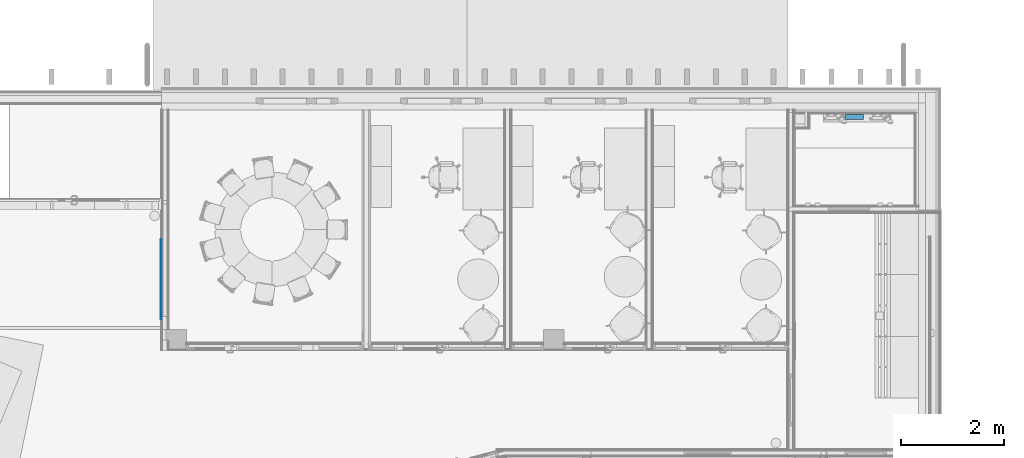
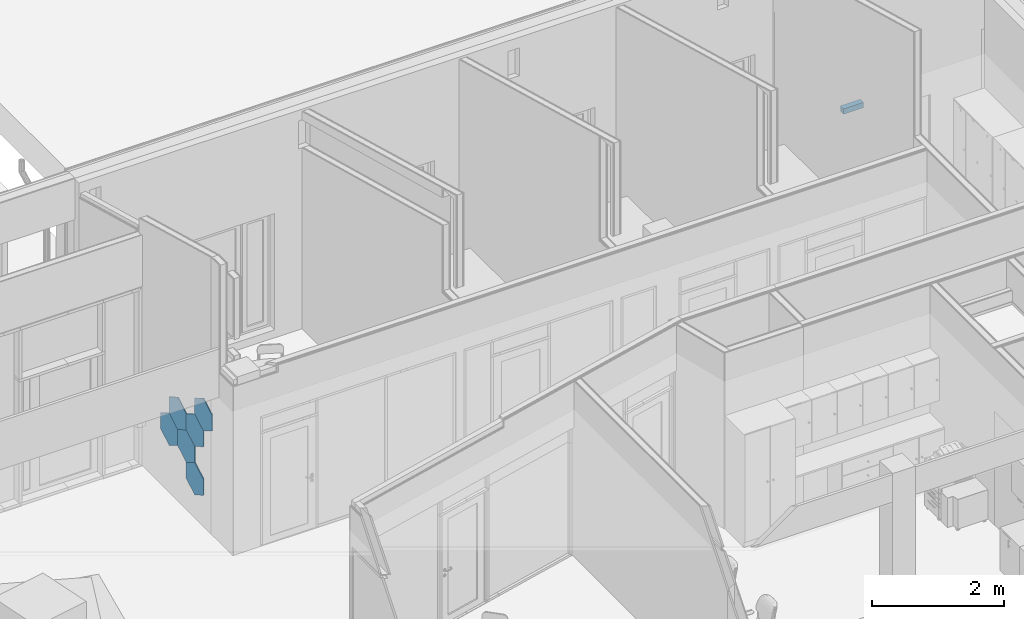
# One storey, part 12 of 153: 7 discrete accessories.
"""IFC2X3 building model written with IfcOpenShell, lengths in millimetres."""

import ifcopenshell
import ifcopenshell.guid

model = None  # the IFC model being written
_history = None  # IfcOwnerHistory: only IFC2X3 demands one
_inside = {}  # id of a spatial element -> (the spatial element, [elements in it])
_under = {}  # id of a project, library or spatial element -> (it, [spatial elements below it])
_declared = {}  # id of a project -> (the project, [libraries it declares])
_typed = {}  # id of a type object -> (the type object, [elements of that type])
_made_of = {}  # id of a material, layer set ... -> (it, [elements and type objects made of it])


def new_model(schema):
    """Start an empty IFC model of exactly this schema.

    Asked for "IFC4X3", IfcOpenShell would pick the latest addendum, in which some entities
    have other attributes; the version numbers below select the first issue.
    IFC2X3 requires an IfcOwnerHistory on every rooted entity: one is made here for all.
    """
    global model, _history
    if schema == "IFC4X3":
        model = ifcopenshell.file(schema_version=(4, 3, 0, 0))
    else:
        model = ifcopenshell.file(schema=schema)
    _inside.clear()
    _under.clear()
    _declared.clear()
    _typed.clear()
    _made_of.clear()
    _history = None
    if model.schema == "IFC2X3":
        org = make("IfcOrganization", Name="unknown")
        user = make(
            "IfcPersonAndOrganization",
            ThePerson=make("IfcPerson", FamilyName="unknown"),
            TheOrganization=org,
        )
        app = make(
            "IfcApplication",
            ApplicationDeveloper=org,
            Version="unknown",
            ApplicationFullName="unknown",
            ApplicationIdentifier="unknown",
        )
        _history = make(
            "IfcOwnerHistory",
            OwningUser=user,
            OwningApplication=app,
            ChangeAction="ADDED",
            CreationDate=0,
        )
    return model


def make(cls, **values):
    """One entity of the class cls with the attributes given. An attribute that is None is left unset."""
    return model.create_entity(
        cls, **{name: value for name, value in values.items() if value is not None}
    )


def entity(cls, *values):
    """Any entity or typed value of the class cls, its attributes in the order of the schema. None: left unset."""
    e = model.create_entity(cls)
    for i, value in enumerate(values):
        if value is not None:
            e[i] = value
    return e


def rooted(cls, **values):
    """An entity with a GlobalId (a new one), such as an element, a storey or a relation."""
    return make(cls, GlobalId=ifcopenshell.guid.new(), OwnerHistory=_history, **values)


def si_unit(unit_type, name, prefix=None):
    """IfcSIUnit, for example si_unit("LENGTHUNIT", "METRE", prefix="MILLI")."""
    return make("IfcSIUnit", UnitType=unit_type, Prefix=prefix, Name=name)


def converted_unit(unit_type, name, factor, base, dimensions=None, offset=None):
    """IfcConversionBasedUnit, such as the inch: factor (a typed value) times the base unit."""
    return make(
        "IfcConversionBasedUnit"
        if offset is None
        else "IfcConversionBasedUnitWithOffset",
        ConversionOffset=offset,
        Dimensions=None
        if dimensions is None
        else entity("IfcDimensionalExponents", *dimensions),
        UnitType=unit_type,
        Name=name,
        ConversionFactor=make(
            "IfcMeasureWithUnit", ValueComponent=factor, UnitComponent=base
        ),
    )


def derived_unit(unit_type, elements):
    """IfcDerivedUnit: a product of units, each with its exponent."""
    return make(
        "IfcDerivedUnit",
        Elements=[
            make("IfcDerivedUnitElement", Unit=unit, Exponent=power)
            for unit, power in elements
        ],
        UnitType=unit_type,
    )


def money_unit(currency):
    """IfcMonetaryUnit."""
    return make("IfcMonetaryUnit", Currency=currency)


def assignment(units):
    """IfcUnitAssignment: the units of a project."""
    return None if units is None else make("IfcUnitAssignment", Units=units)


def point(xyz):
    """IfcCartesianPoint."""
    return None if xyz is None else make("IfcCartesianPoint", Coordinates=xyz)


def direction(xyz):
    """IfcDirection."""
    return None if xyz is None else make("IfcDirection", DirectionRatios=xyz)


def frame(location, z_axis=None, x_axis=None):
    """IfcAxis2Placement3D, a coordinate frame: its origin and axes. An axis left out is left unset."""
    return make(
        "IfcAxis2Placement3D",
        Location=point(location),
        Axis=direction(z_axis),
        RefDirection=direction(x_axis),
    )


def origin_with_axes():
    """The frame at (0, 0, 0) with the z axis (0, 0, 1) and the x axis (1, 0, 0) written out."""
    return frame((0.0, 0.0, 0.0), z_axis=(0.0, 0.0, 1.0), x_axis=(1.0, 0.0, 0.0))


def place(relative_to, where):
    """IfcLocalPlacement: puts the frame where relative to a parent placement (None: the world)."""
    return make(
        "IfcLocalPlacement", PlacementRelTo=relative_to, RelativePlacement=where
    )


def context(
    kind, dimensions, precision=None, world=None, true_north=None, identifier=None
):
    """IfcGeometricRepresentationContext, for example the 3D "Model" context."""
    return make(
        "IfcGeometricRepresentationContext",
        ContextIdentifier=identifier,
        ContextType=kind,
        CoordinateSpaceDimension=dimensions,
        Precision=precision,
        WorldCoordinateSystem=world,
        TrueNorth=true_north,
    )


def subcontext(parent, identifier, kind, view, scale=None):
    """IfcGeometricRepresentationSubContext, for example "Body" below "Model"."""
    return make(
        "IfcGeometricRepresentationSubContext",
        ContextIdentifier=identifier,
        ContextType=kind,
        ParentContext=parent,
        TargetScale=scale,
        TargetView=view,
    )


def project(units=None, contexts=None):
    """IfcProject with its units and contexts."""
    return rooted(
        "IfcProject",
        Name="project",
        RepresentationContexts=contexts,
        UnitsInContext=assignment(units),
    )


def spatial(cls, under=None, at=None, **own):
    """A site, building, storey or space (cls), placed at a placement, below another one or the project."""
    s = rooted(cls, ObjectPlacement=at, **own)
    if under is not None:
        _under.setdefault(under.id(), (under, []))[1].append(s)
    return s


def faces_of(points, faces, orient=None, outer=None):
    """IfcFace entities. A face is a list of loops; a loop is a list of indices into points, from 0.

    orient and outer hold one flag for each loop. By default every Orientation is true, the
    first loop of a face is its IfcFaceOuterBound and the others are IfcFaceBound.
    """
    made = []
    for i, loops in enumerate(faces):
        bounds = []
        for j, loop in enumerate(loops):
            is_outer = j == 0 if outer is None else outer[i][j]
            bounds.append(
                make(
                    "IfcFaceOuterBound" if is_outer else "IfcFaceBound",
                    Bound=make("IfcPolyLoop", Polygon=[points[k] for k in loop]),
                    Orientation=True if orient is None else orient[i][j],
                )
            )
        made.append(make("IfcFace", Bounds=bounds))
    return made


def faceted_brep(points, faces, orient=None, outer=None, voids=None):
    """IfcFacetedBrep: a solid bounded by flat faces; with voids (closed shells), ...WithVoids."""
    shared = [point(p) for p in points]
    hull = make("IfcClosedShell", CfsFaces=faces_of(shared, faces, orient, outer))
    if voids is None:
        return make("IfcFacetedBrep", Outer=hull)
    return make(
        "IfcFacetedBrepWithVoids",
        Outer=hull,
        Voids=[
            make(cls, CfsFaces=faces_of(shared, fs, o, b)) for cls, fs, o, b in voids
        ],
    )


def shape(context_of_items, identifier, shape_type, items):
    """IfcShapeRepresentation: the items that make up one representation, for example the "Body"."""
    return make(
        "IfcShapeRepresentation",
        ContextOfItems=context_of_items,
        RepresentationIdentifier=identifier,
        RepresentationType=shape_type,
        Items=items,
    )


def source(mapping_origin, context_of_items, identifier, shape_type, items):
    """IfcRepresentationMap: a shape defined once, which mapped items show again and again."""
    return make(
        "IfcRepresentationMap",
        MappingOrigin=mapping_origin,
        MappedRepresentation=shape(context_of_items, identifier, shape_type, items),
    )


def transform(
    local_origin,
    x_axis=None,
    y_axis=None,
    z_axis=None,
    scale=None,
    scale2=None,
    scale3=None,
    uniform=True,
):
    """IfcCartesianTransformationOperator3D, or its non-uniform kind. x_axis, y_axis, z_axis: its Axis1, 2, 3."""
    if uniform:
        return make(
            "IfcCartesianTransformationOperator3D",
            Axis1=direction(x_axis),
            Axis2=direction(y_axis),
            LocalOrigin=point(local_origin),
            Scale=scale,
            Axis3=direction(z_axis),
        )
    return make(
        "IfcCartesianTransformationOperator3DnonUniform",
        Axis1=direction(x_axis),
        Axis2=direction(y_axis),
        LocalOrigin=point(local_origin),
        Scale=scale,
        Axis3=direction(z_axis),
        Scale2=scale2,
        Scale3=scale3,
    )


def mapped(mapping_source, mapping_target):
    """IfcMappedItem: shows the shape of a source again, moved by a transform."""
    return make(
        "IfcMappedItem", MappingSource=mapping_source, MappingTarget=mapping_target
    )


def made_of(thing, what):
    """Note that an element or type object is made of a material, layer set ...; save() writes the relation."""
    if what is not None:
        _made_of.setdefault(what.id(), (what, []))[1].append(thing)
    return thing


def type_object(cls, material=None, **own):
    """A type object (cls), such as IfcWallType, which elements share."""
    return made_of(rooted(cls, **own), material)


def element(
    cls,
    number,
    at=None,
    inside=None,
    cuts=None,
    type_object=None,
    material=None,
    context=None,
    identifier="Body",
    shape_type=None,
    held_by="IfcProductDefinitionShape",
    body=None,
    shapes=None,
    **own,
):
    """One element of the class cls, such as IfcWall. Its Tag is "e" and its number.

    at: its placement. inside: the storey or other place that contains it. cuts: it is an
    opening in that element (IfcRelVoidsElement). A single representation is given by context,
    identifier, shape_type and body (its items); several are given by shapes. held_by: the class
    of the entity that holds the representations. save() writes the other relations.
    """
    e = rooted(cls, Tag="e%d" % number, ObjectPlacement=at, **own)
    if body is not None:
        shapes = [shape(context, identifier, shape_type, body)]
    if shapes is not None:
        e.Representation = make(held_by, Representations=shapes)
    if inside is not None:
        _inside.setdefault(inside.id(), (inside, []))[1].append(e)
    if cuts is not None:
        rooted(
            "IfcRelVoidsElement", RelatingBuildingElement=cuts, RelatedOpeningElement=e
        )
    if type_object is not None:
        _typed.setdefault(type_object.id(), (type_object, []))[1].append(e)
    return made_of(e, material)


def aggregate(whole, parts):
    """IfcRelAggregates: a whole, such as a stair, and the parts it consists of."""
    return rooted("IfcRelAggregates", RelatingObject=whole, RelatedObjects=parts)


def save(model, path):
    """Write the relations noted so far, then the file.

    IfcRelAggregates (storeys below a building ...), IfcRelContainedInSpatialStructure (elements
    in a storey), IfcRelDefinesByType, IfcRelAssociatesMaterial and IfcRelDeclares: one each for
    every whole, place, type object, material and project.
    """
    for whole, parts in _under.values():
        aggregate(whole, parts)
    for where, things in _inside.values():
        rooted(
            "IfcRelContainedInSpatialStructure",
            RelatedElements=things,
            RelatingStructure=where,
        )
    for kind, things in _typed.values():
        rooted("IfcRelDefinesByType", RelatedObjects=things, RelatingType=kind)
    for what, things in _made_of.values():
        rooted("IfcRelAssociatesMaterial", RelatedObjects=things, RelatingMaterial=what)
    for by, libraries in _declared.values():
        rooted("IfcRelDeclares", RelatingContext=by, RelatedDefinitions=libraries)
    model.write(path)


model = new_model("IFC2X3")

# Units and contexts
model_context = context("Model", 3, precision=0.01, world=origin_with_axes(), true_north=direction((0.0, 1.0)))
body_context = subcontext(model_context, "Body", "Model", "MODEL_VIEW")
ifc_project = project(units=[si_unit("LENGTHUNIT", "METRE", prefix="MILLI"), si_unit("AREAUNIT", "SQUARE_METRE"), si_unit("VOLUMEUNIT", "CUBIC_METRE"), converted_unit("PLANEANGLEUNIT", "DEGREE", entity("IfcPlaneAngleMeasure", 0.0174532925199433), si_unit("PLANEANGLEUNIT", "RADIAN"), dimensions=[0, 0, 0, 0, 0, 0, 0]), money_unit("EUR"), converted_unit("TIMEUNIT", "Year", entity("IfcTimeMeasure", 31557600.0), si_unit("TIMEUNIT", "SECOND"), dimensions=[0, 0, 1, 0, 0, 0, 0]), si_unit("MASSUNIT", "GRAM", prefix="KILO"), si_unit("THERMODYNAMICTEMPERATUREUNIT", "DEGREE_CELSIUS"), si_unit("LUMINOUSINTENSITYUNIT", "LUMEN"), si_unit("ENERGYUNIT", "JOULE", prefix="MEGA"), derived_unit("THERMALCONDUCTANCEUNIT", [(si_unit("POWERUNIT", "WATT"), 1), (si_unit("LENGTHUNIT", "METRE"), -1), (si_unit("THERMODYNAMICTEMPERATUREUNIT", "KELVIN"), -1)]), derived_unit("SPECIFICHEATCAPACITYUNIT", [(si_unit("ENERGYUNIT", "JOULE"), 1), (si_unit("MASSUNIT", "GRAM", prefix="KILO"), -1), (si_unit("THERMODYNAMICTEMPERATUREUNIT", "KELVIN"), -1)]), derived_unit("MASSDENSITYUNIT", [(si_unit("MASSUNIT", "GRAM", prefix="KILO"), 1), (si_unit("VOLUMEUNIT", "CUBIC_METRE"), -1)])], contexts=[model_context])

# Site, building, storey
site_placement = place(None, frame((0.0, 0.0, 8650.0), z_axis=(0.0, 0.0, 1.0), x_axis=(1.0, 0.0, 0.0)))
site = spatial("IfcSite", under=ifc_project, at=site_placement, Name="43301:001:0844", CompositionType="ELEMENT")
building_placement = place(site_placement, origin_with_axes())
building = spatial("IfcBuilding", under=site, at=building_placement, Name="Kuressaare Ametikooli tuulikute mehaanikute õppekorpus", CompositionType="ELEMENT")
storey_placement = place(building_placement, frame((0.0, 0.0, 4100.0), z_axis=(0.0, 0.0, 1.0), x_axis=(1.0, 0.0, 0.0)))
storey = spatial("IfcBuildingStorey", under=building, at=storey_placement, Name="2.korrus", CompositionType="ELEMENT", Elevation=4100.0)

# Discrete accessories
discrete_accessory_type_1 = type_object("IfcDiscreteAccessoryType", Name="Cube 27")
shared_shape_1 = source(origin_with_axes(), body_context, "Body", "Brep", [
    faceted_brep([(-350.0, 0.0, 0.0), (-350.0, 97.0, 0.0), (0.0, 97.0, 0.0), (0.0, 0.0, 0.0), (-350.0, 0.0, 100.0), (-350.0, 97.0, 100.0), (0.0, 97.0, 100.0), (0.0, 0.0, 100.0)], [[[0, 1, 2, 3]], [[0, 4, 5, 1]], [[1, 5, 6, 2]], [[2, 6, 7, 3]], [[3, 7, 4, 0]], [[7, 6, 5, 4]]]),
])
discrete_accessory_placement = place(storey_placement, frame((131602.2871698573, 28158.06884492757, 800.9067184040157), z_axis=(0.0, 0.0, 1.0), x_axis=(-1.0, 0.0, 0.0)))
element("IfcDiscreteAccessory", 1, at=discrete_accessory_placement, inside=storey, type_object=discrete_accessory_type_1, Name="SR", context=body_context, shape_type="MappedRepresentation", body=[
    mapped(shared_shape_1, transform((0.0, 0.0, 0.0))),
])
discrete_accessory_type_2 = type_object("IfcDiscreteAccessoryType", Name="Prism 27")
shared_shape_2 = source(origin_with_axes(), body_context, "Body", "Brep", [
    faceted_brep([(0.0, 0.0, -300.0), (-16.00000000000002, 0.0, -300.0), (-16.00000000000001, 259.8076211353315, -150.0), (0.0, 259.8076211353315, -150.0), (0.0, -259.8076211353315, -150.0), (-16.00000000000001, -259.8076211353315, -150.0), (-15.99999999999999, -259.8076211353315, 150.0000000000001), (-15.99999999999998, 0.0, 300.0), (-15.99999999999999, 259.8076211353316, 149.9999999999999), (0.0, 259.8076211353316, 149.9999999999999), (0.0, 0.0, 300.0), (0.0, -259.8076211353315, 150.0000000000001)], [[[0, 1, 2, 3]], [[4, 5, 1, 0]], [[1, 5, 6, 7, 8, 2]], [[3, 2, 8, 9]], [[0, 3, 9, 10, 11, 4]], [[11, 6, 5, 4]], [[10, 7, 6, 11]], [[9, 8, 7, 10]]]),
])
for number, where, z_axis, x_axis in (
    (2, (118281.2757303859, 24949.5769530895, 1200.0), (0.0, 0.0, 1.0), (0.9999999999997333, -7.304047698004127e-07, 0.0)),
    (3, (118281.2757303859, 25469.19219536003, 1200.0), (0.0, 0.0, 1.0), (0.9999999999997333, -7.304047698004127e-07, 0.0)),
    (4, (118281.2757303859, 25209.38457422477, 1650.0), (0.0, 0.0, 1.0), (0.9999999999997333, -7.304047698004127e-07, 0.0)),
    (5, (118281.2757303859, 24689.76933195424, 1650.0), (0.0, 0.0, 1.0), (0.9999999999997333, -7.304047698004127e-07, 0.0)),
    (6, (118281.2757303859, 24429.96171081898, 2100.0), (0.0, 0.0, 1.0), (0.9999999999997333, -7.304047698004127e-07, 0.0)),
    (7, (118281.2757303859, 24689.76933195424, 750.0), (0.0, 0.0, 1.0), (0.9999999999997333, -7.304047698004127e-07, 0.0)),
):
    element("IfcDiscreteAccessory", number, at=place(storey_placement, frame(where, z_axis=z_axis, x_axis=x_axis)), inside=storey, type_object=discrete_accessory_type_2, Name="Teadetetahvel", context=body_context, shape_type="MappedRepresentation", body=[
        mapped(shared_shape_2, transform((0.0, 0.0, 0.0))),
    ])

save(model, "model.ifc")
